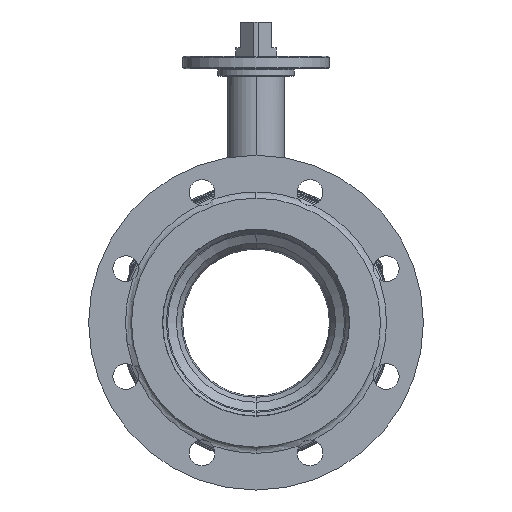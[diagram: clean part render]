
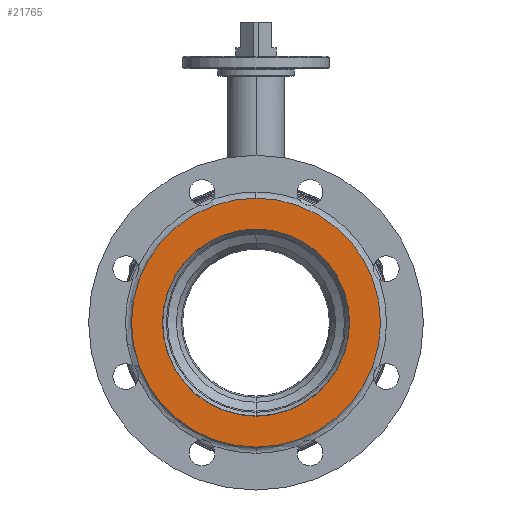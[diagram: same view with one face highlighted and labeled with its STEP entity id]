
A CAD part, left-side view. The second image highlights one B-rep face of the part: STEP entity #21765.
In plain terms, the highlighted planar face has unit normal (-1, 0, 0).
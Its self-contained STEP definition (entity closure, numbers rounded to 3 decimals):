
#7641=CARTESIAN_POINT('',(-175.,0.,0.));
#7642=DIRECTION('',(1.,0.,0.));
#7643=DIRECTION('',(0.,0.,-1.));
#7644=AXIS2_PLACEMENT_3D('',#7641,#7642,#7643);
#7646=CARTESIAN_POINT('',(-175.,0.,0.));
#7647=DIRECTION('',(1.,0.,0.));
#7648=DIRECTION('',(0.,0.,1.));
#7649=AXIS2_PLACEMENT_3D('',#7646,#7647,#7648);
#7651=CARTESIAN_POINT('',(-175.,0.,0.));
#7652=DIRECTION('',(1.,0.,0.));
#7653=DIRECTION('',(0.,0.,-1.));
#7654=AXIS2_PLACEMENT_3D('',#7651,#7652,#7653);
#7656=CARTESIAN_POINT('',(-175.,0.,0.));
#7657=DIRECTION('',(1.,0.,0.));
#7658=DIRECTION('',(0.,0.,1.));
#7659=AXIS2_PLACEMENT_3D('',#7656,#7657,#7658);
#9711=CARTESIAN_POINT('',(-175.,0.,-79.65));
#9712=CARTESIAN_POINT('',(-175.,0.,79.65));
#9713=VERTEX_POINT('',#9711);
#9714=VERTEX_POINT('',#9712);
#9719=CARTESIAN_POINT('',(-175.,0.,-106.));
#9720=CARTESIAN_POINT('',(-175.,0.,106.));
#9721=VERTEX_POINT('',#9719);
#9722=VERTEX_POINT('',#9720);
#21750=CARTESIAN_POINT('',(-175.,0.,0.));
#21751=DIRECTION('',(1.,0.,0.));
#21752=DIRECTION('',(0.,0.,-1.));
#21753=AXIS2_PLACEMENT_3D('',#21750,#21751,#21752);
#21754=PLANE('',#21753);
#21755=ORIENTED_EDGE('',*,*,#21703,.T.);
#21756=ORIENTED_EDGE('',*,*,#21671,.T.);
#21757=EDGE_LOOP('',(#21755,#21756));
#21758=FACE_OUTER_BOUND('',#21757,.F.);
#21760=ORIENTED_EDGE('',*,*,#21759,.F.);
#21762=ORIENTED_EDGE('',*,*,#21761,.F.);
#21763=EDGE_LOOP('',(#21760,#21762));
#21764=FACE_BOUND('',#21763,.F.);
#21765=ADVANCED_FACE('',(#21758,#21764),#21754,.F.);
#7645=CIRCLE('',#7644,106.);
#7650=CIRCLE('',#7649,106.);
#7655=CIRCLE('',#7654,79.65);
#7660=CIRCLE('',#7659,79.65);
#21671=EDGE_CURVE('',#9722,#9721,#7650,.T.);
#21703=EDGE_CURVE('',#9721,#9722,#7645,.T.);
#21759=EDGE_CURVE('',#9713,#9714,#7655,.T.);
#21761=EDGE_CURVE('',#9714,#9713,#7660,.T.);
